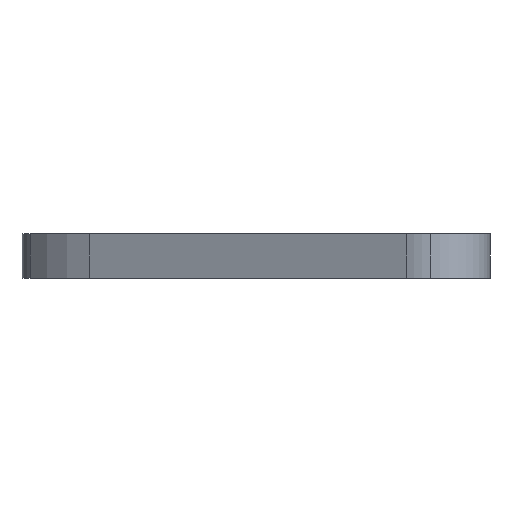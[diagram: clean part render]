
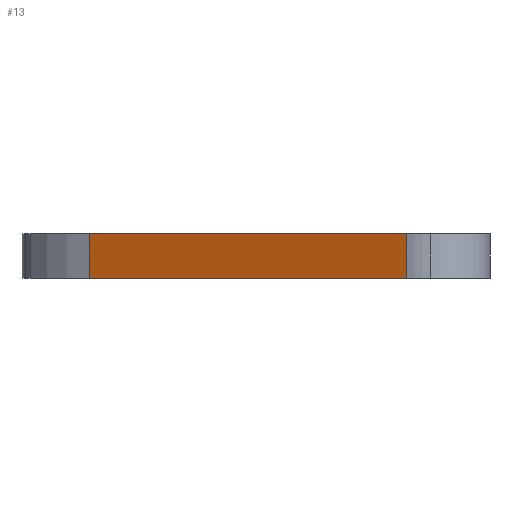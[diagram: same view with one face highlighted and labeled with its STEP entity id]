
A CAD part, left-side view. The second image highlights one B-rep face of the part: STEP entity #13.
In plain terms, the highlighted planar face has unit normal (-0.913, 0.407, 0).
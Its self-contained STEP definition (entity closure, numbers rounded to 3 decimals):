
#11 = VERTEX_POINT ( 'NONE', #238 ) ;
#13 = ADVANCED_FACE ( 'NONE', ( #747 ), #149, .T. ) ;
#17 = CARTESIAN_POINT ( 'NONE',  ( 87.698, -39.084, 2. ) ) ;
#24 = VERTEX_POINT ( 'NONE', #169 ) ;
#28 = EDGE_CURVE ( 'NONE', #829, #24, #379, .T. ) ;
#70 = VECTOR ( 'NONE', #621, 1000. ) ;
#80 = CARTESIAN_POINT ( 'NONE',  ( 87.698, -39.084, 2. ) ) ;
#124 = VECTOR ( 'NONE', #576, 1000. ) ;
#146 = LINE ( 'NONE', #410, #227 ) ;
#149 = PLANE ( 'NONE',  #503 ) ;
#169 = CARTESIAN_POINT ( 'NONE',  ( 220.599, 259.127, 0. ) ) ;
#221 = LINE ( 'NONE', #17, #70 ) ;
#227 = VECTOR ( 'NONE', #745, 1000. ) ;
#238 = CARTESIAN_POINT ( 'NONE',  ( 214.273, 244.932, 0. ) ) ;
#285 = EDGE_CURVE ( 'NONE', #11, #24, #460, .T. ) ;
#294 = CARTESIAN_POINT ( 'NONE',  ( 214.273, 244.932, 2. ) ) ;
#348 = DIRECTION ( 'NONE',  ( -0.913, 0.407, 0. ) ) ;
#367 = VECTOR ( 'NONE', #604, 1000. ) ;
#379 = LINE ( 'NONE', #452, #124 ) ;
#410 = CARTESIAN_POINT ( 'NONE',  ( 214.273, 244.932, 2. ) ) ;
#452 = CARTESIAN_POINT ( 'NONE',  ( 220.599, 259.127, 2. ) ) ;
#460 = LINE ( 'NONE', #530, #367 ) ;
#475 = ORIENTED_EDGE ( 'NONE', *, *, #772, .T. ) ;
#503 = AXIS2_PLACEMENT_3D ( 'NONE', #80, #348, #610 ) ;
#530 = CARTESIAN_POINT ( 'NONE',  ( 87.698, -39.084, 0. ) ) ;
#576 = DIRECTION ( 'NONE',  ( 0., 0., -1. ) ) ;
#577 = EDGE_CURVE ( 'NONE', #801, #11, #146, .T. ) ;
#599 = EDGE_LOOP ( 'NONE', ( #723, #667, #475, #845 ) ) ;
#604 = DIRECTION ( 'NONE',  ( 0.407, 0.913, 0. ) ) ;
#610 = DIRECTION ( 'NONE',  ( -0.407, -0.913, 0. ) ) ;
#621 = DIRECTION ( 'NONE',  ( 0.407, 0.913, 0. ) ) ;
#667 = ORIENTED_EDGE ( 'NONE', *, *, #577, .F. ) ;
#704 = CARTESIAN_POINT ( 'NONE',  ( 220.599, 259.127, 2. ) ) ;
#723 = ORIENTED_EDGE ( 'NONE', *, *, #285, .F. ) ;
#745 = DIRECTION ( 'NONE',  ( 0., 0., -1. ) ) ;
#747 = FACE_OUTER_BOUND ( 'NONE', #599, .T. ) ;
#772 = EDGE_CURVE ( 'NONE', #801, #829, #221, .T. ) ;
#801 = VERTEX_POINT ( 'NONE', #294 ) ;
#829 = VERTEX_POINT ( 'NONE', #704 ) ;
#845 = ORIENTED_EDGE ( 'NONE', *, *, #28, .T. ) ;
